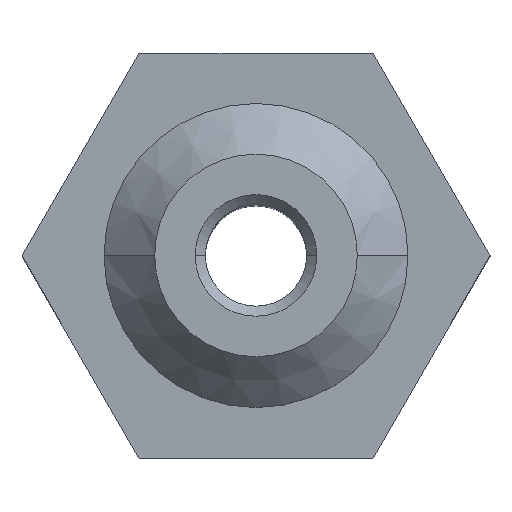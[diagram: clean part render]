
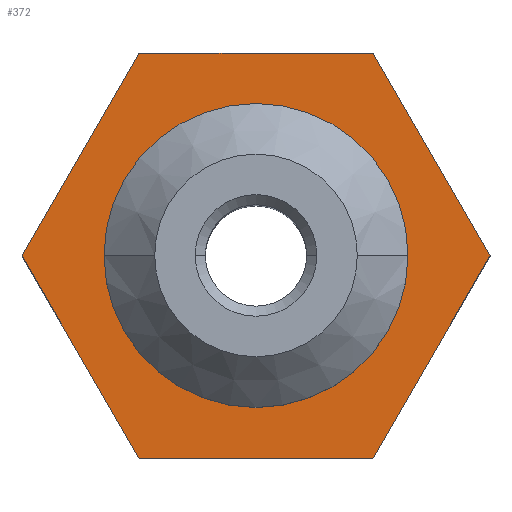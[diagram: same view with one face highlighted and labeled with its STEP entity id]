
A CAD part, top view. The second image highlights one B-rep face of the part: STEP entity #372.
In plain terms, the highlighted planar face has unit normal (0, 0, 1).
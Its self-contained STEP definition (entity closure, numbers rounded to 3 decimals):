
#17 = CARTESIAN_POINT ( 'NONE',  ( 2.309, -4., 5. ) ) ;
#19 = PLANE ( 'NONE',  #720 ) ;
#28 = DIRECTION ( 'NONE',  ( 1., 0., 0. ) ) ;
#30 = CIRCLE ( 'NONE', #390, 2.3 ) ;
#44 = CARTESIAN_POINT ( 'NONE',  ( 2.309, -4., 5. ) ) ;
#45 = ORIENTED_EDGE ( 'NONE', *, *, #678, .T. ) ;
#71 = VERTEX_POINT ( 'NONE', #170 ) ;
#77 = DIRECTION ( 'NONE',  ( 0., 0., -1. ) ) ;
#97 = EDGE_CURVE ( 'NONE', #696, #71, #423, .T. ) ;
#101 = DIRECTION ( 'NONE',  ( -0.5, 0.866, 0. ) ) ;
#106 = EDGE_CURVE ( 'NONE', #419, #128, #478, .T. ) ;
#108 = VERTEX_POINT ( 'NONE', #611 ) ;
#128 = VERTEX_POINT ( 'NONE', #557 ) ;
#141 = FACE_BOUND ( 'NONE', #154, .T. ) ;
#149 = VECTOR ( 'NONE', #233, 1000. ) ;
#154 = EDGE_LOOP ( 'NONE', ( #209, #816 ) ) ;
#158 = AXIS2_PLACEMENT_3D ( 'NONE', #242, #375, #573 ) ;
#160 = EDGE_CURVE ( 'NONE', #128, #687, #289, .T. ) ;
#170 = CARTESIAN_POINT ( 'NONE',  ( 4.619, 0., 5. ) ) ;
#191 = CARTESIAN_POINT ( 'NONE',  ( 2.3, 0., 5. ) ) ;
#202 = CARTESIAN_POINT ( 'NONE',  ( 0., 0., 5. ) ) ;
#206 = LINE ( 'NONE', #462, #307 ) ;
#209 = ORIENTED_EDGE ( 'NONE', *, *, #697, .T. ) ;
#230 = CARTESIAN_POINT ( 'NONE',  ( -2.309, 4., 5. ) ) ;
#233 = DIRECTION ( 'NONE',  ( 0.5, 0.866, 0. ) ) ;
#238 = ORIENTED_EDGE ( 'NONE', *, *, #160, .T. ) ;
#242 = CARTESIAN_POINT ( 'NONE',  ( 0., 0., 5. ) ) ;
#266 = VECTOR ( 'NONE', #745, 1000. ) ;
#273 = FACE_OUTER_BOUND ( 'NONE', #591, .T. ) ;
#289 = LINE ( 'NONE', #230, #517 ) ;
#307 = VECTOR ( 'NONE', #778, 1000. ) ;
#325 = CARTESIAN_POINT ( 'NONE',  ( 0., 0., 5. ) ) ;
#329 = DIRECTION ( 'NONE',  ( 1., 0., 0. ) ) ;
#363 = CIRCLE ( 'NONE', #158, 2.3 ) ;
#372 = ADVANCED_FACE ( 'NONE', ( #141, #273 ), #19, .T. ) ;
#375 = DIRECTION ( 'NONE',  ( 0., 0., -1. ) ) ;
#390 = AXIS2_PLACEMENT_3D ( 'NONE', #325, #77, #329 ) ;
#392 = CARTESIAN_POINT ( 'NONE',  ( -4.619, 0., 5. ) ) ;
#393 = CARTESIAN_POINT ( 'NONE',  ( 2.309, 4., 5. ) ) ;
#398 = DIRECTION ( 'NONE',  ( 0.5, -0.866, 0. ) ) ;
#419 = VERTEX_POINT ( 'NONE', #393 ) ;
#423 = LINE ( 'NONE', #44, #149 ) ;
#425 = VECTOR ( 'NONE', #398, 1000. ) ;
#460 = ORIENTED_EDGE ( 'NONE', *, *, #106, .T. ) ;
#462 = CARTESIAN_POINT ( 'NONE',  ( -2.309, -4., 5. ) ) ;
#476 = LINE ( 'NONE', #734, #425 ) ;
#478 = LINE ( 'NONE', #489, #266 ) ;
#489 = CARTESIAN_POINT ( 'NONE',  ( 2.309, 4., 5. ) ) ;
#509 = EDGE_CURVE ( 'NONE', #71, #419, #614, .T. ) ;
#517 = VECTOR ( 'NONE', #547, 1000. ) ;
#533 = DIRECTION ( 'NONE',  ( 0., 0., 1. ) ) ;
#547 = DIRECTION ( 'NONE',  ( -0.5, -0.866, 0. ) ) ;
#557 = CARTESIAN_POINT ( 'NONE',  ( -2.309, 4., 5. ) ) ;
#573 = DIRECTION ( 'NONE',  ( 1., 0., 0. ) ) ;
#591 = EDGE_LOOP ( 'NONE', ( #763, #630, #460, #238, #667, #45 ) ) ;
#604 = VERTEX_POINT ( 'NONE', #642 ) ;
#611 = CARTESIAN_POINT ( 'NONE',  ( -2.309, -4., 5. ) ) ;
#614 = LINE ( 'NONE', #689, #769 ) ;
#615 = EDGE_CURVE ( 'NONE', #604, #666, #363, .T. ) ;
#630 = ORIENTED_EDGE ( 'NONE', *, *, #509, .T. ) ;
#642 = CARTESIAN_POINT ( 'NONE',  ( -2.3, 0., 5. ) ) ;
#666 = VERTEX_POINT ( 'NONE', #191 ) ;
#667 = ORIENTED_EDGE ( 'NONE', *, *, #834, .T. ) ;
#678 = EDGE_CURVE ( 'NONE', #108, #696, #206, .T. ) ;
#687 = VERTEX_POINT ( 'NONE', #392 ) ;
#689 = CARTESIAN_POINT ( 'NONE',  ( 4.619, 0., 5. ) ) ;
#696 = VERTEX_POINT ( 'NONE', #17 ) ;
#697 = EDGE_CURVE ( 'NONE', #666, #604, #30, .T. ) ;
#720 = AXIS2_PLACEMENT_3D ( 'NONE', #202, #533, #28 ) ;
#734 = CARTESIAN_POINT ( 'NONE',  ( -4.619, 0., 5. ) ) ;
#745 = DIRECTION ( 'NONE',  ( -1., 0., 0. ) ) ;
#763 = ORIENTED_EDGE ( 'NONE', *, *, #97, .T. ) ;
#769 = VECTOR ( 'NONE', #101, 1000. ) ;
#778 = DIRECTION ( 'NONE',  ( 1., 0., 0. ) ) ;
#816 = ORIENTED_EDGE ( 'NONE', *, *, #615, .T. ) ;
#834 = EDGE_CURVE ( 'NONE', #687, #108, #476, .T. ) ;
